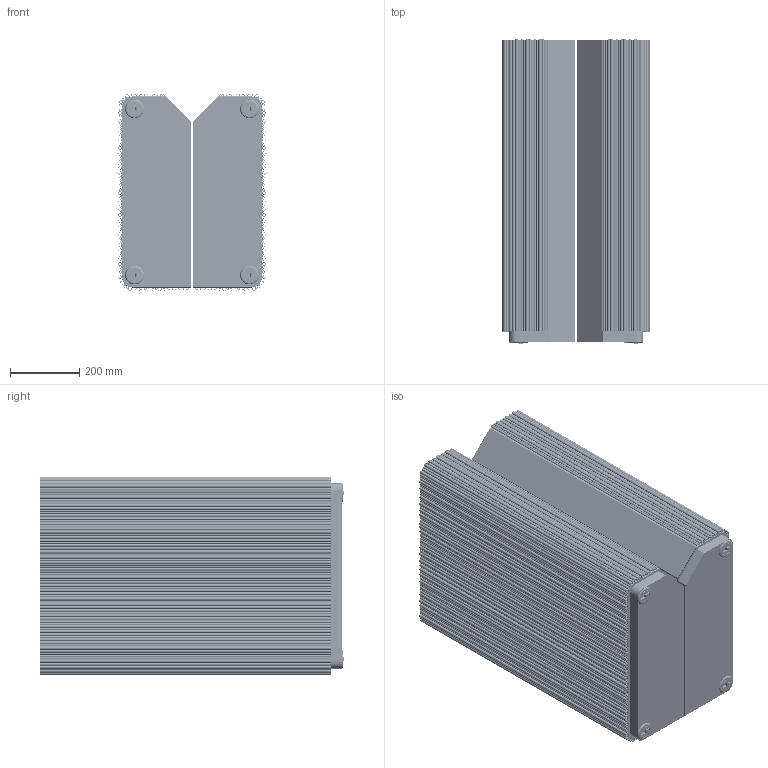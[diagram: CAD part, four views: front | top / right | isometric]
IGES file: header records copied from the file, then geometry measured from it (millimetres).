
Start section: SolidWorks IGES file using analytic representation for surfaces
Global section: file name: \\UTENTI\Dati Utenti\Tecnico\DC\2D - 3D per sito\3D\DeCastelli-3D-Canneto Barista.igs; native system: SolidWorks 2022; preprocessor: SolidWorks 2022; author: maria; date: 240710.170938; units: millimetre
Bounding box: 423.8 x 877 x 570.8 mm (x, y, z)
Surface area: 10747871.7 mm2 (no closed solid volume)
Topology: 0 solids, 0 shells, 1527 faces, 33380 edges, 33378 vertices
Faces by surface type: revolution 980, bspline 547
